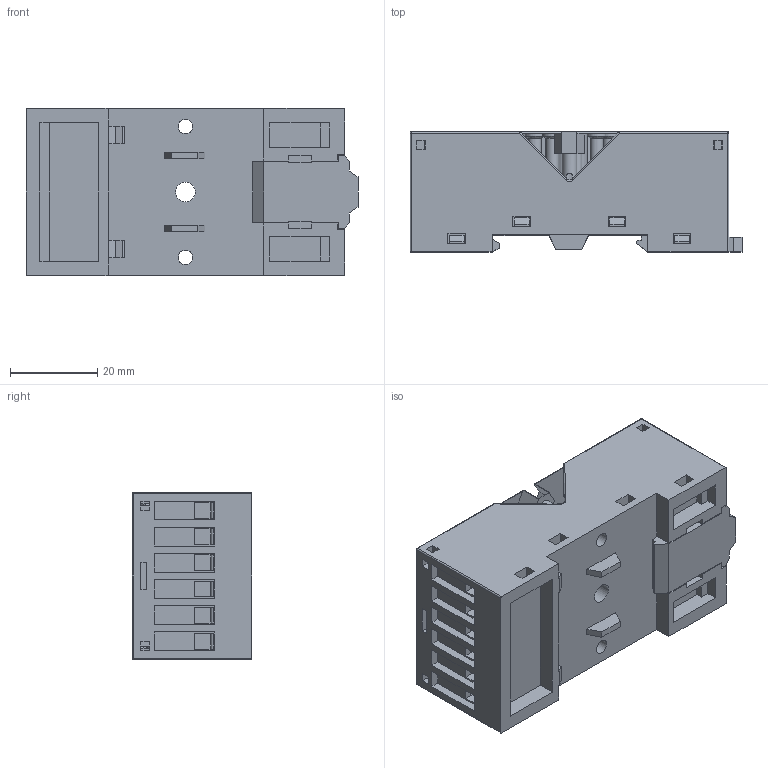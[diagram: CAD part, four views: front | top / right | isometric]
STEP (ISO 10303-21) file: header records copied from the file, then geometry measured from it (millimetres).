
FILE_DESCRIPTION(/* description */ ('STEP AP214'),/* implementation_level */ '2;1');
FILE_NAME(/* name */ 'I:\TI\Inventor\Panelen\Algemeen\Relais\Relpol relays 3D files\VG-11T\VG-11T.STP',/* time_stamp */ '2021-06-03T14:54:41+02:00',/* author */ ('nbinnendijk'),/* organization */ ('Mors Smitt'),/* preprocessor_version */ 'ST-DEVELOPER v18',/* originating_system */ 'Autodesk Inventor 2020',/* authorisation */ '');
FILE_SCHEMA (('AUTOMOTIVE_DESIGN { 1 0 10303 214 3 1 1 }'));
Length unit declared in the file: millimetre
Products named in the file (3): VG-11T; VG-11T-1; GZT4-0015 - Wkrêt krzy¿owy M3x8
Assembly tree (13 placements, depth 2):
  VG-11T
    VG-11T-1
    GZT4-0015 - Wkrêt krzy¿owy M3x8  x12
Bounding box: 76.1 x 27.5 x 38.3 mm (x, y, z)
Volume: 60298.6 mm3; surface area: 23665.9 mm2
Topology: 13 solids, 13 shells, 1694 faces, 4277 edges, 2579 vertices
Faces by surface type: plane 694, cylinder 463, bspline 240, torus 134, sphere 104, cone 59
Full cylindrical faces by diameter (mm): 2.2 x12, 2.5 x12, 3 x23, 3.3 x2, 3.8 x1, 4.3 x11, 4.5 x1, 5.25 x12
Entity records: 22643 total; most frequent: CARTESIAN_POINT 4699, ORIENTED_EDGE 3704, DIRECTION 3667, EDGE_CURVE 1852, LINE 1345, VECTOR 1345, VERTEX_POINT 1204, AXIS2_PLACEMENT_3D 1161
